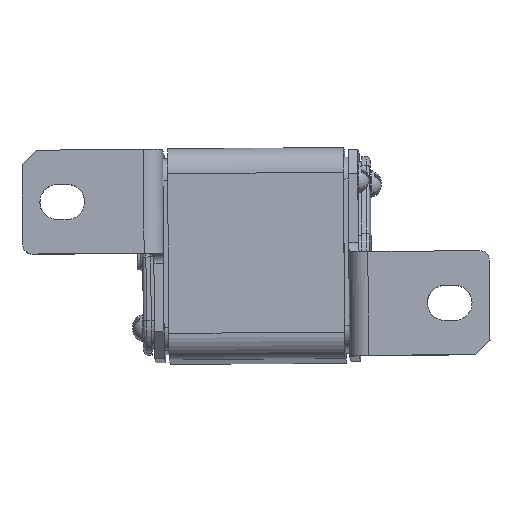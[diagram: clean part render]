
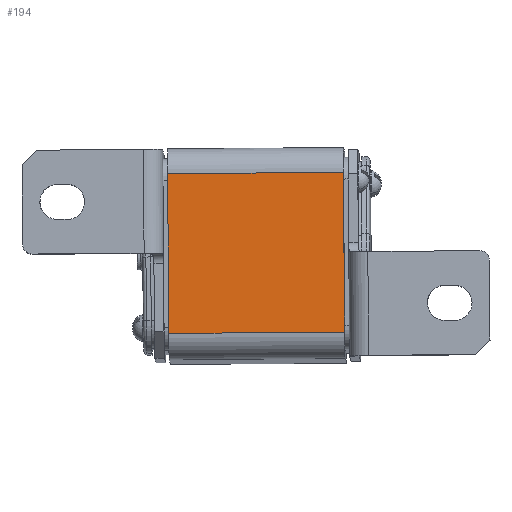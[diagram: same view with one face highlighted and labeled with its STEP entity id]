
A CAD part, front view. The second image highlights one B-rep face of the part: STEP entity #194.
In plain terms, the highlighted planar face has unit normal (-0.008, -1, 0.03) as drawn and (-1, 0, 0) by its records, which use the part's own axes.
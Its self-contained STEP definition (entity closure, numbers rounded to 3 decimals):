
#79 = EDGE_CURVE ( 'NONE', #5891, #8134, #7083, .T. ) ;
#194 = ADVANCED_FACE ( 'NONE', ( #6675 ), #393, .F. ) ;
#393 = PLANE ( 'NONE',  #6679 ) ;
#752 = ORIENTED_EDGE ( 'NONE', *, *, #1742, .F. ) ;
#1000 = DIRECTION ( 'NONE',  ( 0., 0., 1. ) ) ;
#1027 = CARTESIAN_POINT ( 'NONE',  ( -33., 27.5, -25. ) ) ;
#1172 = VERTEX_POINT ( 'NONE', #3679 ) ;
#1190 = DIRECTION ( 'NONE',  ( 0., 0., -1. ) ) ;
#1742 = EDGE_CURVE ( 'NONE', #8134, #1774, #6343, .T. ) ;
#1774 = VERTEX_POINT ( 'NONE', #8158 ) ;
#2019 = ORIENTED_EDGE ( 'NONE', *, *, #5944, .T. ) ;
#2080 = ORIENTED_EDGE ( 'NONE', *, *, #2468, .T. ) ;
#2119 = CARTESIAN_POINT ( 'NONE',  ( -33., -27.5, -25. ) ) ;
#2166 = EDGE_LOOP ( 'NONE', ( #2080, #752, #3434, #2019 ) ) ;
#2261 = VECTOR ( 'NONE', #1000, 1000. ) ;
#2302 = CARTESIAN_POINT ( 'NONE',  ( -33., 27.5, 25. ) ) ;
#2468 = EDGE_CURVE ( 'NONE', #1172, #1774, #8382, .T. ) ;
#2892 = CARTESIAN_POINT ( 'NONE',  ( -33., 27.5, 25. ) ) ;
#3144 = DIRECTION ( 'NONE',  ( 1., 0., 0. ) ) ;
#3434 = ORIENTED_EDGE ( 'NONE', *, *, #79, .F. ) ;
#3679 = CARTESIAN_POINT ( 'NONE',  ( -33., -27.5, -25. ) ) ;
#3958 = VECTOR ( 'NONE', #4182, 1000. ) ;
#4075 = DIRECTION ( 'NONE',  ( 0., 0., 1. ) ) ;
#4182 = DIRECTION ( 'NONE',  ( 0., -1., 0. ) ) ;
#4326 = CARTESIAN_POINT ( 'NONE',  ( -33., 27.5, -25. ) ) ;
#4572 = CARTESIAN_POINT ( 'NONE',  ( -33., 27.5, -25. ) ) ;
#5194 = VECTOR ( 'NONE', #6636, 1000. ) ;
#5891 = VERTEX_POINT ( 'NONE', #7237 ) ;
#5944 = EDGE_CURVE ( 'NONE', #5891, #1172, #6554, .T. ) ;
#6343 = LINE ( 'NONE', #2892, #3958 ) ;
#6554 = LINE ( 'NONE', #4572, #5194 ) ;
#6636 = DIRECTION ( 'NONE',  ( 0., -1., 0. ) ) ;
#6675 = FACE_OUTER_BOUND ( 'NONE', #2166, .T. ) ;
#6679 = AXIS2_PLACEMENT_3D ( 'NONE', #1027, #3144, #1190 ) ;
#6740 = VECTOR ( 'NONE', #4075, 1000. ) ;
#7083 = LINE ( 'NONE', #4326, #2261 ) ;
#7237 = CARTESIAN_POINT ( 'NONE',  ( -33., 27.5, -25. ) ) ;
#8134 = VERTEX_POINT ( 'NONE', #2302 ) ;
#8158 = CARTESIAN_POINT ( 'NONE',  ( -33., -27.5, 25. ) ) ;
#8382 = LINE ( 'NONE', #2119, #6740 ) ;
